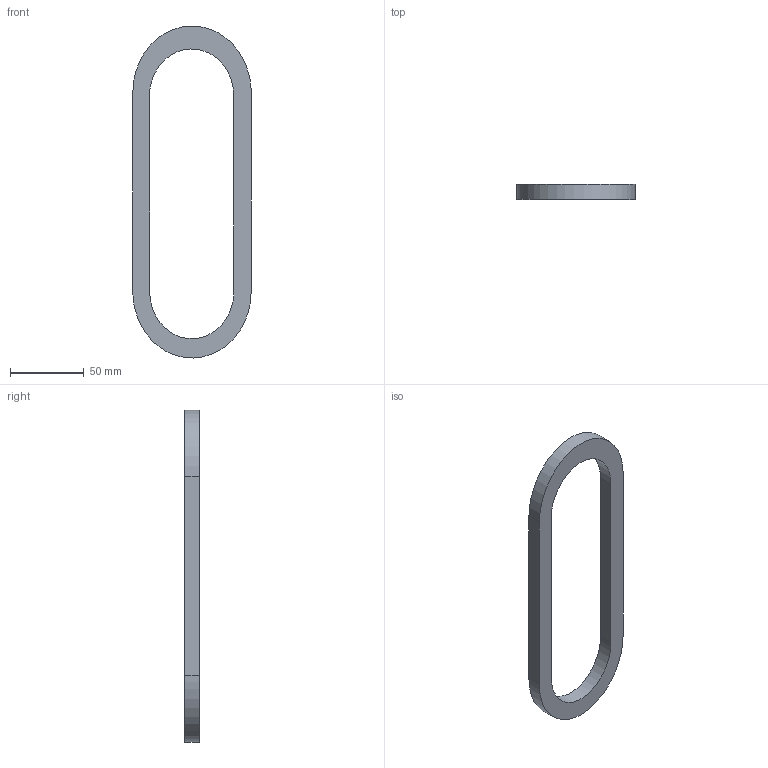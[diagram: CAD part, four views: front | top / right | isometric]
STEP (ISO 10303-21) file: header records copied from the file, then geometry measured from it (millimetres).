
FILE_DESCRIPTION(/* description */ ('STEP AP242 Edition 2','CAx-IF Rec.Pracs.---Representation and Presentation of Product Manufacturing Information (PMI)---4.0---2014-10-13','CAx-IF Rec.Pracs.---3D Tessellated Geometry---0.4---2014-09-14','2;1','CAx-IF Rec.Pracs.---User Defined Attributes---1.5---2016-08-15'),/* implementation_level */ '2;1');
FILE_NAME(/* name */ 'Part Studio 1 - Part 2',/* time_stamp */ '2026-10-19T00:09:51Z',/* author */ (''),/* organization */ (''),/* preprocessor_version */ 'ST-DEVELOPER v20',/* originating_system */ 'ONSHAPE BY PTC INC, 1.222',/* authorisation */ ' ');
FILE_SCHEMA (('AP242_MANAGED_MODEL_BASED_3D_ENGINEERING_MIM_LF { 1 0 10303 442 3 1 4 }'));
Length unit declared in the file: metre
Products named in the file (1): Part 2
Bounding box: 80.32 x 10 x 225.29 mm (x, y, z)
Volume: 60927.1 mm3; surface area: 22096.3 mm2
Topology: 1 solids, 1 shells, 10 faces, 24 edges, 16 vertices
Faces by surface type: plane 6, bspline 4
Entity records: 472 total; most frequent: CARTESIAN_POINT 213, ORIENTED_EDGE 48, DIRECTION 46, EDGE_CURVE 24, VERTEX_POINT 16, LINE 16, VECTOR 16, AXIS2_PLACEMENT_3D 15
